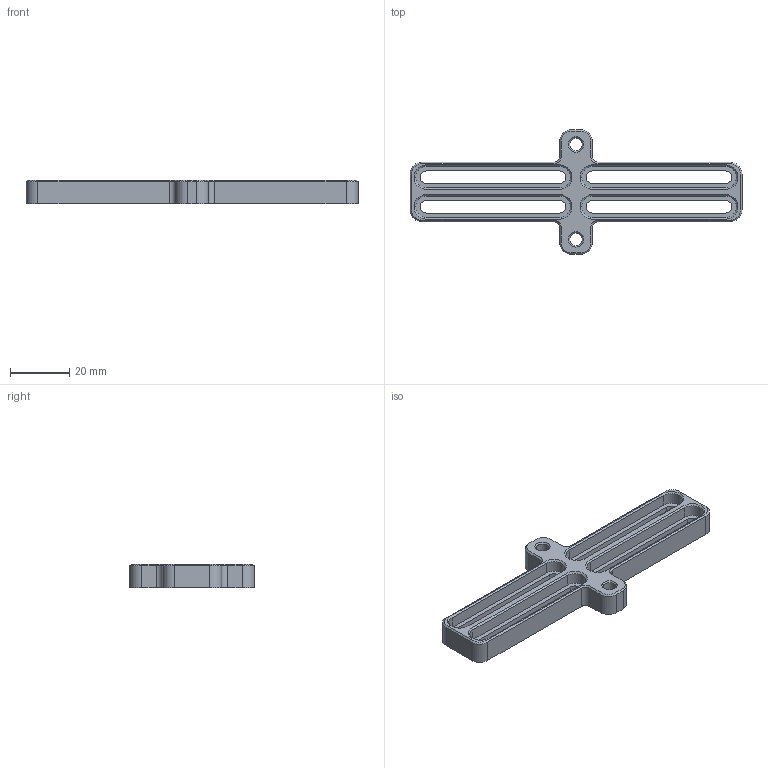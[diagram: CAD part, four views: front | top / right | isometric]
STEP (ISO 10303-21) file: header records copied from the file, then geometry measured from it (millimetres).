
FILE_DESCRIPTION (( 'STEP AP214' ), '1' );
FILE_NAME ('SMP_2L.STEP', '2019-12-04T09:08:56', ( '微软用户' ), ( '微软中国' ), 'SwSTEP 2.0', 'SolidWorks 2016', '' );
FILE_SCHEMA (( 'AUTOMOTIVE_DESIGN' ));
Length unit declared in the file: millimetre
Products named in the file (1): SMP_2L
Bounding box: 112 x 42 x 8 mm (x, y, z)
Volume: 9723.7 mm3; surface area: 9007 mm2
Topology: 1 solids, 1 shells, 114 faces, 276 edges, 168 vertices
Faces by surface type: plane 54, cylinder 32, cone 28
Entity records: 4600 total; most frequent: DIRECTION 598, CARTESIAN_POINT 559, ORIENTED_EDGE 552, EDGE_CURVE 276, AXIS2_PLACEMENT_3D 207, LINE 184, VECTOR 184, VERTEX_POINT 168
